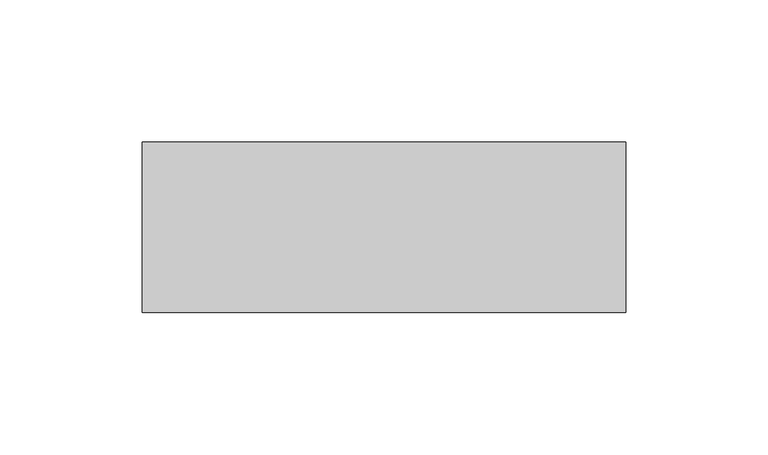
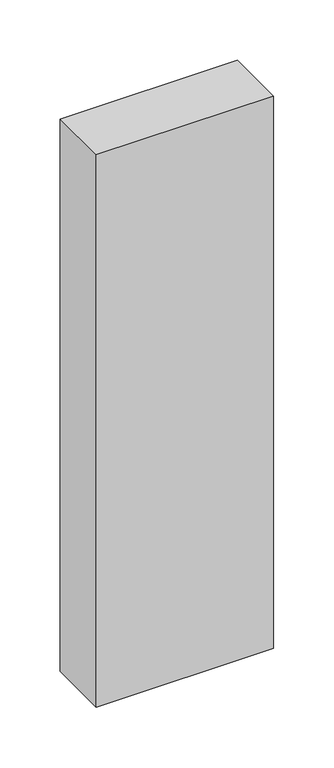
"""IFC4 building model written with IfcOpenShell, lengths in millimetres: plate geometry, Системная панель : Алюкобонд серый."""

from ifc_helpers import new_model, si_unit, origin, origin_with_axes, place, context, project, spatial, polyline, outline, extrude, source, transform, mapped, element, save


def plate_80b9953a(model_context):
    return source(origin(), model_context, "Body", "SweptSolid", [
        extrude(outline(polyline([(85.0, -10.5), (-85.0, -10.5), (-85.0, 49.5), (85.0, 49.5), (85.0, -10.5)])), origin_with_axes(), (0.0, 0.0, 1.0), 560.0),
    ])


if __name__ == "__main__":
    model = new_model("IFC4")
    model_context = context("Model", 3, world=origin())
    ifc_project = project(units=[si_unit("LENGTHUNIT", "METRE", prefix="MILLI")], contexts=[model_context])
    site = spatial("IfcSite", under=ifc_project)
    building = spatial("IfcBuilding", under=site)
    placement = place(None, origin())
    plate_shape = plate_80b9953a(model_context)
    element("IfcPlate", 1, ObjectType="Системная панель : Алюкобонд серый", at=placement, inside=building, context=model_context, shape_type="MappedRepresentation", body=[
        mapped(plate_shape, transform((0.0, 0.0, 0.0), x_axis=(1.0, 0.0, 0.0), y_axis=(0.0, 1.0, 0.0), z_axis=(0.0, 0.0, 1.0))),
    ])
    save(model, "model.ifc")
